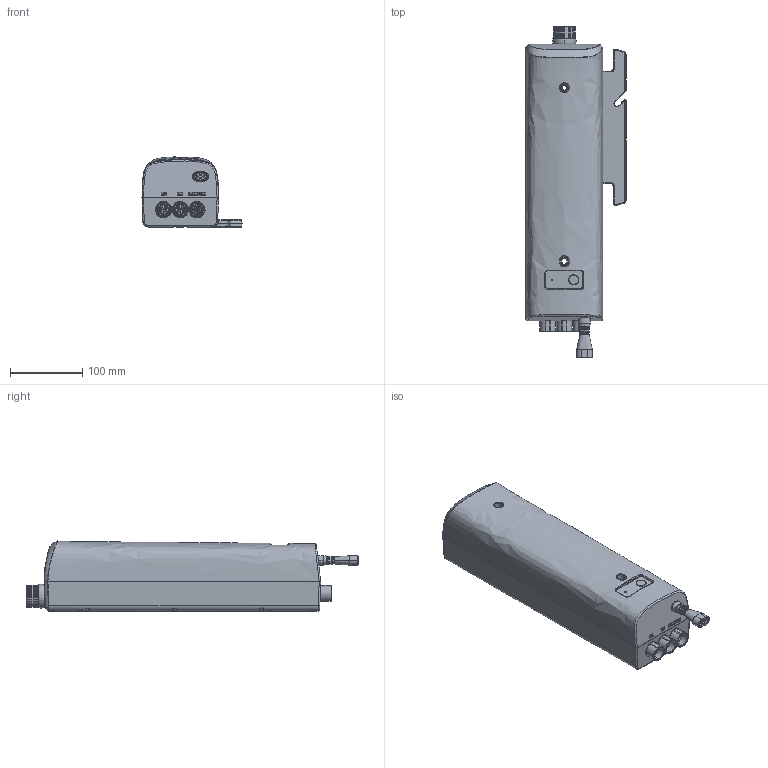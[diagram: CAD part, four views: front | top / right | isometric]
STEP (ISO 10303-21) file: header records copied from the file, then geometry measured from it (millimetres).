
FILE_DESCRIPTION (( 'STEP AP203' ), '1' );
FILE_NAME ('TC20.STEP', '2017-05-18T05:50:46', ( '' ), ( '' ), 'SwSTEP 2.0', 'SolidWorks 2015', '' );
FILE_SCHEMA (( 'CONFIG_CONTROL_DESIGN' ));
Products named in the file (1): TC20
Bounding box: 138.51 x 459.7 x 96.97 mm (x, y, z)
Volume: 3607090.9 mm3; surface area: 304903.5 mm2
Topology: 10 solids, 10 shells, 2400 faces, 6360 edges, 4054 vertices
Faces by surface type: plane 1070, bspline 650, cylinder 464, torus 118, cone 62, sphere 36
Entity records: 99736 total; most frequent: CARTESIAN_POINT 44721, ORIENTED_EDGE 12644, DIRECTION 9612, EDGE_CURVE 6322, VERTEX_POINT 4048, VECTOR 3426, LINE 3426, AXIS2_PLACEMENT_3D 3093
